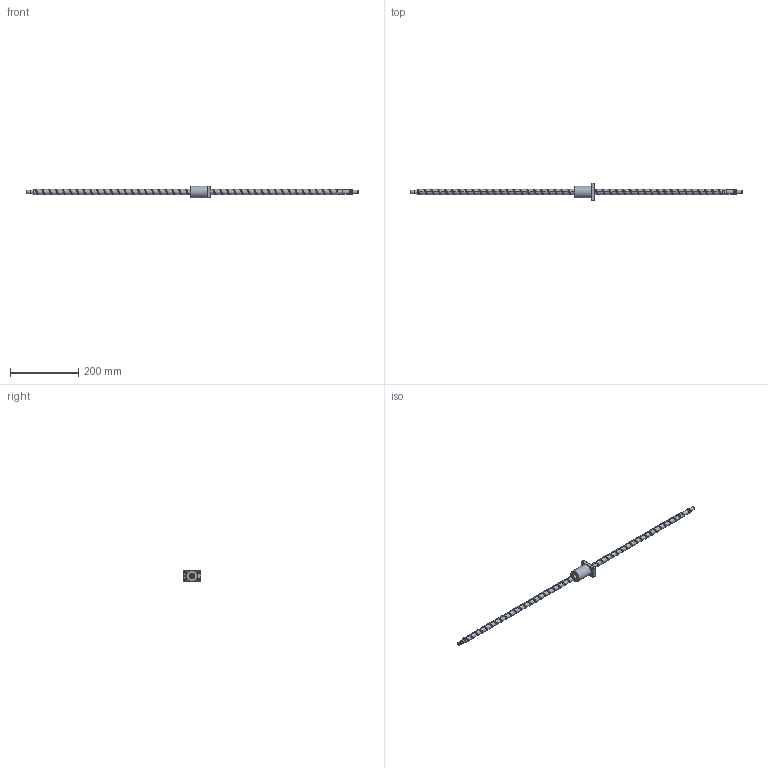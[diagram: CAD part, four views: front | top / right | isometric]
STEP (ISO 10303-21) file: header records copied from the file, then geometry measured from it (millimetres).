
FILE_DESCRIPTION (( 'STEP AP203' ), '1' );
FILE_NAME ('XSVR01520A1DGC5-971-P1.step', '2024-06-03T05:37:37', ( '' ), ( '' ), 'SwSTEP 2.0', 'SolidWorks 2022', '' );
FILE_SCHEMA (( 'CONFIG_CONTROL_DESIGN' ));
Length unit declared in the file: millimetre
Products named in the file (1): XSVR01520A1DGC5-971-P1
Bounding box: 971 x 50 x 34 mm (x, y, z)
Volume: 205183.7 mm3; surface area: 61606.8 mm2
Topology: 2 solids, 2 shells, 175 faces, 479 edges, 314 vertices
Faces by surface type: cylinder 98, plane 43, cone 15, bspline 10, torus 9
Full cylindrical faces by diameter (mm): 4 x1, 4.2 x15, 5 x6, 5.5 x4, 9.5 x4, 9.6 x1, 10 x3, 12 x9, 15 x45, 17 x1, 34 x1
Entity records: 24450 total; most frequent: CARTESIAN_POINT 22322, ORIENTED_EDGE 410, DIRECTION 391, EDGE_CURVE 205, AXIS2_PLACEMENT_3D 168, EDGE_LOOP 153, VERTEX_POINT 150, FACE_OUTER_BOUND 120
